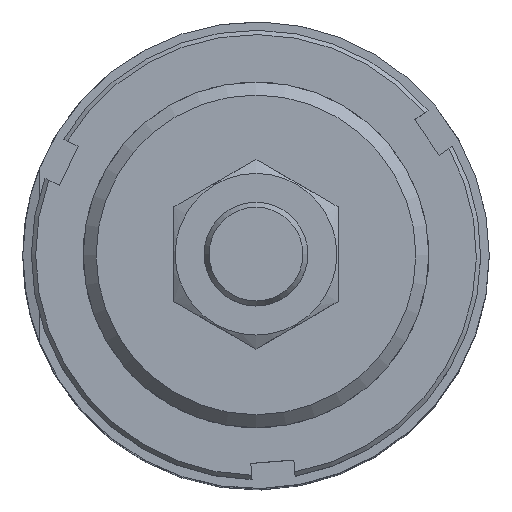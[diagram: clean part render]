
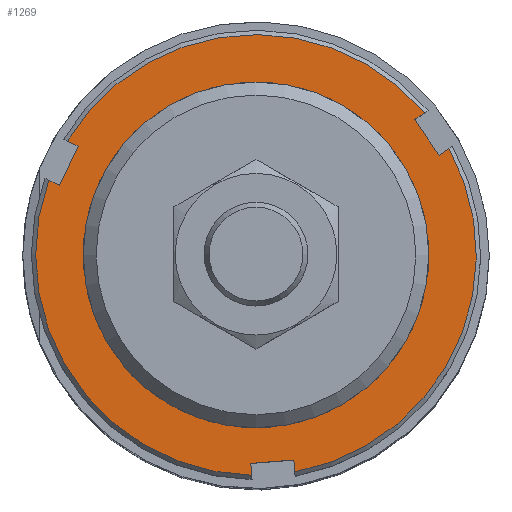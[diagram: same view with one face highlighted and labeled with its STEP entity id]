
A CAD part, top view. The second image highlights one B-rep face of the part: STEP entity #1269.
In plain terms, the highlighted planar face has unit normal (0, 0, 1).
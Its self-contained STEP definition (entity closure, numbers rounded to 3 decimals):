
#103=LINE('',#2143,#159);
#107=LINE('',#2154,#163);
#109=LINE('',#2167,#165);
#113=LINE('',#2180,#169);
#117=LINE('',#2191,#173);
#119=LINE('',#2204,#175);
#124=LINE('',#2233,#180);
#125=LINE('',#2235,#181);
#126=LINE('',#2237,#182);
#159=VECTOR('',#1731,1.377);
#163=VECTOR('',#1737,5.);
#165=VECTOR('',#1741,1.377);
#169=VECTOR('',#1747,1.377);
#173=VECTOR('',#1753,5.);
#175=VECTOR('',#1757,1.377);
#180=VECTOR('',#1786,1.377);
#181=VECTOR('',#1787,5.);
#182=VECTOR('',#1788,1.377);
#262=PLANE('',#1428);
#316=FACE_BOUND('',#512,.T.);
#317=FACE_BOUND('',#513,.T.);
#512=EDGE_LOOP('',(#1115));
#513=EDGE_LOOP('',(#1116,#1117,#1118,#1119,#1120,#1121,#1122,#1123,#1124,
#1125,#1126,#1127));
#584=CIRCLE('',#1429,20.);
#585=CIRCLE('',#1430,25.5);
#586=CIRCLE('',#1431,25.5);
#587=CIRCLE('',#1432,25.5);
#674=VERTEX_POINT('',#2140);
#675=VERTEX_POINT('',#2142);
#678=VERTEX_POINT('',#2152);
#682=VERTEX_POINT('',#2163);
#686=VERTEX_POINT('',#2177);
#687=VERTEX_POINT('',#2179);
#690=VERTEX_POINT('',#2189);
#694=VERTEX_POINT('',#2200);
#701=VERTEX_POINT('',#2228);
#702=VERTEX_POINT('',#2230);
#703=VERTEX_POINT('',#2232);
#704=VERTEX_POINT('',#2234);
#705=VERTEX_POINT('',#2236);
#811=EDGE_CURVE('',#675,#674,#103,.T.);
#816=EDGE_CURVE('',#674,#678,#107,.T.);
#820=EDGE_CURVE('',#678,#682,#109,.T.);
#825=EDGE_CURVE('',#687,#686,#113,.T.);
#830=EDGE_CURVE('',#686,#690,#117,.T.);
#834=EDGE_CURVE('',#690,#694,#119,.T.);
#846=EDGE_CURVE('',#701,#701,#584,.T.);
#847=EDGE_CURVE('',#702,#682,#585,.T.);
#848=EDGE_CURVE('',#702,#703,#124,.T.);
#849=EDGE_CURVE('',#703,#704,#125,.T.);
#850=EDGE_CURVE('',#704,#705,#126,.T.);
#851=EDGE_CURVE('',#687,#705,#586,.T.);
#852=EDGE_CURVE('',#675,#694,#587,.T.);
#1115=ORIENTED_EDGE('',*,*,#846,.T.);
#1116=ORIENTED_EDGE('',*,*,#811,.T.);
#1117=ORIENTED_EDGE('',*,*,#816,.T.);
#1118=ORIENTED_EDGE('',*,*,#820,.T.);
#1119=ORIENTED_EDGE('',*,*,#847,.F.);
#1120=ORIENTED_EDGE('',*,*,#848,.T.);
#1121=ORIENTED_EDGE('',*,*,#849,.T.);
#1122=ORIENTED_EDGE('',*,*,#850,.T.);
#1123=ORIENTED_EDGE('',*,*,#851,.F.);
#1124=ORIENTED_EDGE('',*,*,#825,.T.);
#1125=ORIENTED_EDGE('',*,*,#830,.T.);
#1126=ORIENTED_EDGE('',*,*,#834,.T.);
#1127=ORIENTED_EDGE('',*,*,#852,.F.);
#1269=ADVANCED_FACE('',(#316,#317),#262,.T.);
#1428=AXIS2_PLACEMENT_3D('',#2227,#1780,#1781);
#1429=AXIS2_PLACEMENT_3D('',#2229,#1782,#1783);
#1430=AXIS2_PLACEMENT_3D('',#2231,#1784,#1785);
#1431=AXIS2_PLACEMENT_3D('',#2238,#1789,#1790);
#1432=AXIS2_PLACEMENT_3D('',#2239,#1791,#1792);
#1731=DIRECTION('',(0.866,-0.5,0.));
#1737=DIRECTION('',(-0.5,-0.866,0.));
#1741=DIRECTION('',(-0.866,0.5,0.));
#1747=DIRECTION('',(-0.866,-0.5,0.));
#1753=DIRECTION('',(-0.5,0.866,0.));
#1757=DIRECTION('',(0.866,0.5,0.));
#1780=DIRECTION('center_axis',(0.,0.,1.));
#1781=DIRECTION('ref_axis',(1.,0.,0.));
#1782=DIRECTION('center_axis',(0.,0.,-1.));
#1783=DIRECTION('ref_axis',(-1.,0.,0.));
#1784=DIRECTION('center_axis',(0.,0.,-1.));
#1785=DIRECTION('ref_axis',(-1.,0.,0.));
#1786=DIRECTION('',(0.,1.,0.));
#1787=DIRECTION('',(1.,0.,0.));
#1788=DIRECTION('',(0.,-1.,0.));
#1789=DIRECTION('center_axis',(0.,0.,-1.));
#1790=DIRECTION('ref_axis',(-1.,0.,0.));
#1791=DIRECTION('center_axis',(0.,0.,-1.));
#1792=DIRECTION('ref_axis',(-1.,0.,0.));
#2140=CARTESIAN_POINT('',(-19.535,14.165,9.));
#2142=CARTESIAN_POINT('',(-20.727,14.854,9.));
#2143=CARTESIAN_POINT('',(-3.758,5.056,9.));
#2152=CARTESIAN_POINT('',(-22.035,9.835,9.));
#2154=CARTESIAN_POINT('',(-26.794,1.591,9.));
#2163=CARTESIAN_POINT('',(-23.227,10.524,9.));
#2167=CARTESIAN_POINT('',(-7.072,1.196,9.));
#2177=CARTESIAN_POINT('',(22.035,9.835,9.));
#2179=CARTESIAN_POINT('',(23.227,10.524,9.));
#2180=CARTESIAN_POINT('',(6.258,0.726,9.));
#2189=CARTESIAN_POINT('',(19.535,14.165,9.));
#2191=CARTESIAN_POINT('',(25.544,3.756,9.));
#2200=CARTESIAN_POINT('',(20.727,14.854,9.));
#2204=CARTESIAN_POINT('',(4.572,5.526,9.));
#2227=CARTESIAN_POINT('Origin',(0.,-24.87,
9.));
#2228=CARTESIAN_POINT('',(20.,0.,9.));
#2229=CARTESIAN_POINT('Origin',(0.,0.,9.));
#2230=CARTESIAN_POINT('',(-2.5,-25.377,9.));
#2231=CARTESIAN_POINT('Origin',(0.,0.,9.));
#2232=CARTESIAN_POINT('',(-2.5,-24.,9.));
#2233=CARTESIAN_POINT('',(-2.5,-24.435,9.));
#2234=CARTESIAN_POINT('',(2.5,-24.,9.));
#2235=CARTESIAN_POINT('',(1.25,-24.,9.));
#2236=CARTESIAN_POINT('',(2.5,-25.377,9.));
#2237=CARTESIAN_POINT('',(2.5,-25.375,9.));
#2238=CARTESIAN_POINT('Origin',(0.,0.,9.));
#2239=CARTESIAN_POINT('Origin',(0.,0.,9.));
